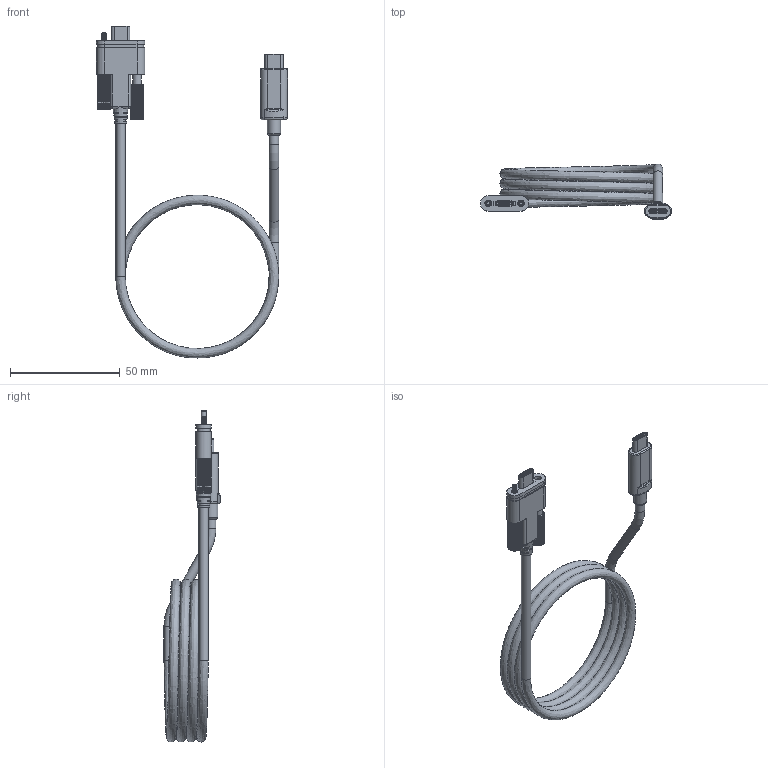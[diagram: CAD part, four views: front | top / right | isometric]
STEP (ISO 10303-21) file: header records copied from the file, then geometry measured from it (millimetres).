
FILE_DESCRIPTION(/* description */ (''),/* implementation_level */ '2;1');
FILE_NAME(/* name */ 'C:/Users/Leo/Desktop/AA CoolGear CADs/CG-G2SL1CC/CG-G2SL1CC Model3D LPV1.step',/* time_stamp */ '2021-10-08T15:45:27-04:00',/* author */ (''),/* organization */ (''),/* preprocessor_version */ 'ST-DEVELOPER v18.1',/* originating_system */ 'Autodesk Translation Framework v10.10.0.1391',/* authorisation */ '');
FILE_SCHEMA (('AUTOMOTIVE_DESIGN { 1 0 10303 214 3 1 1 }'));
Length unit declared in the file: millimetre
Products named in the file (1): FusionComponent
Bounding box: 87.21 x 25.66 x 151.58 mm (x, y, z)
Volume: 18654.8 mm3; surface area: 18216.2 mm2
Topology: 2 solids, 4 shells, 1060 faces, 3080 edges, 2029 vertices
Faces by surface type: plane 661, cylinder 354, torus 17, bspline 15, cone 9, sphere 4
Full cylindrical faces by diameter (mm): 1 x3, 1.48 x20, 1.625 x4, 2 x20, 2.55 x2, 3 x2, 4 x2, 4.3 x4, 4.5 x2, 4.6 x1, 6 x1
Entity records: 42511 total; most frequent: CARTESIAN_POINT 14098, ORIENTED_EDGE 6152, DIRECTION 5761, EDGE_CURVE 3076, LINE 2195, VECTOR 2195, VERTEX_POINT 2029, AXIS2_PLACEMENT_3D 1783
